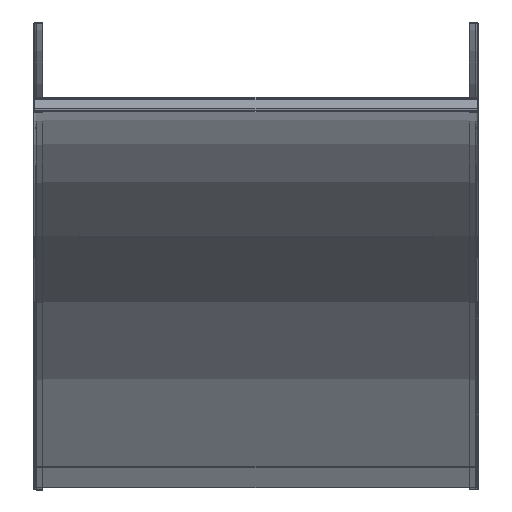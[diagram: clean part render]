
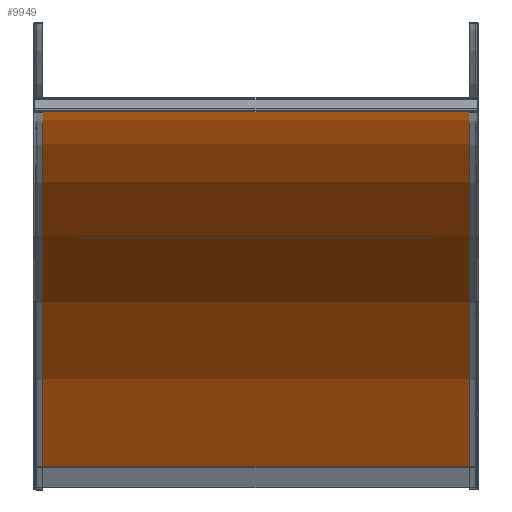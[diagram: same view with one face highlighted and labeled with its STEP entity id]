
A CAD part, top view. The second image highlights one B-rep face of the part: STEP entity #9949.
In plain terms, the highlighted cylindrical face has radius 1221.23 mm (diameter 2442.46 mm), a partial arc.
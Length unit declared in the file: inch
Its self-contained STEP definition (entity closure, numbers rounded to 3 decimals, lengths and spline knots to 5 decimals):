
#9783=DIRECTION('',(-1.,0.,0.));
#9784=VECTOR('',#9783,29.875);
#9785=CARTESIAN_POINT('',(14.9375,0.,0.));
#9786=LINE('',#9785,#9784);
#9787=CARTESIAN_POINT('',(14.9375,48.08,0.));
#9788=DIRECTION('',(-1.,0.,0.));
#9789=DIRECTION('',(0.,-1.,0.));
#9790=AXIS2_PLACEMENT_3D('',#9787,#9788,#9789);
#9813=CARTESIAN_POINT('',(-14.9375,48.08,0.));
#9814=DIRECTION('',(-1.,0.,0.));
#9815=DIRECTION('',(0.,-1.,0.));
#9816=AXIS2_PLACEMENT_3D('',#9813,#9814,#9815);
#9839=DIRECTION('',(-1.,0.,0.));
#9840=VECTOR('',#9839,29.875);
#9841=CARTESIAN_POINT('',(14.9375,24.04,41.6385));
#9842=LINE('',#9841,#9840);
#9887=CARTESIAN_POINT('',(14.9375,0.,0.));
#9889=VERTEX_POINT('',#9887);
#9893=CARTESIAN_POINT('',(-14.9375,0.,0.));
#9894=VERTEX_POINT('',#9893);
#9903=CARTESIAN_POINT('',(14.9375,24.04,41.6385));
#9904=VERTEX_POINT('',#9903);
#9907=CARTESIAN_POINT('',(-14.9375,24.04,41.6385));
#9908=VERTEX_POINT('',#9907);
#9935=CARTESIAN_POINT('',(14.9375,48.08,0.));
#9936=DIRECTION('',(-1.,0.,0.));
#9937=DIRECTION('',(0.,0.,1.));
#9938=AXIS2_PLACEMENT_3D('',#9935,#9936,#9937);
#9939=CYLINDRICAL_SURFACE('',#9938,48.08);
#9941=ORIENTED_EDGE('',*,*,#9940,.T.);
#9943=ORIENTED_EDGE('',*,*,#9942,.T.);
#9945=ORIENTED_EDGE('',*,*,#9944,.F.);
#9946=ORIENTED_EDGE('',*,*,#9924,.F.);
#9947=EDGE_LOOP('',(#9941,#9943,#9945,#9946));
#9948=FACE_OUTER_BOUND('',#9947,.F.);
#9949=ADVANCED_FACE('',(#9948),#9939,.F.);
#9791=CIRCLE('',#9790,48.08);
#9817=CIRCLE('',#9816,48.08);
#9924=EDGE_CURVE('',#9889,#9894,#9786,.T.);
#9940=EDGE_CURVE('',#9889,#9904,#9791,.T.);
#9942=EDGE_CURVE('',#9904,#9908,#9842,.T.);
#9944=EDGE_CURVE('',#9894,#9908,#9817,.T.);
